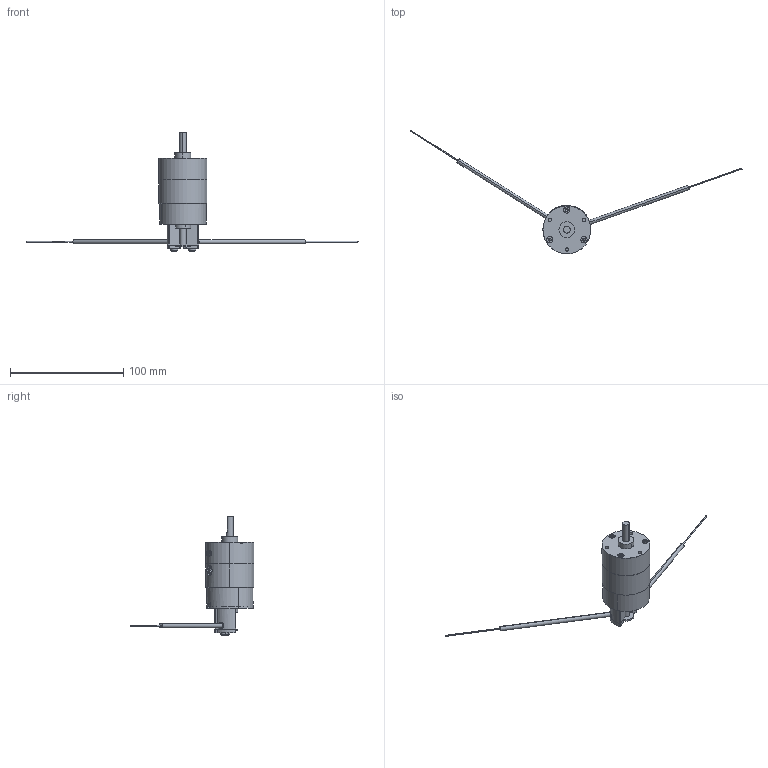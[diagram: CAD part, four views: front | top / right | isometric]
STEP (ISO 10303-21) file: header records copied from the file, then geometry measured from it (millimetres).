
FILE_DESCRIPTION (( 'STEP AP203' ), '1' );
FILE_NAME ('PROA10S-#-#-#-FU.STEP', '2016-02-04T07:00:14', ( 'Sam Lin' ), ( '' ), 'SwSTEP 2.0', 'SolidWorks 2013', '' );
FILE_SCHEMA (( 'CONFIG_CONTROL_DESIGN' ));
Length unit declared in the file: metre
Products named in the file (13): PROA10S-#-# (4); PROA10S-#-#-#-FR (7); PROA10S-#-# (1); PROA10S-#-#-#-FU (3); PROA10S-#-# (5); PROA10S-#-#-#-FU; PROA10S-#-# (6); PROA10S-#-# (2); mark-PROA10S; PROA10S-#-#-#-FR (2); PROA10S-#-#-#-FR (1); PROA10S-#-# (3); PROA10S-#-#-#-FR (5)
Assembly tree (16 placements, depth 2):
  PROA10S-#-#-#-FU
    PROA10S-#-# (3)
    PROA10S-#-# (4)
    PROA10S-#-# (1)
    PROA10S-#-# (5)
    PROA10S-#-# (6)
    PROA10S-#-# (2)
    mark-PROA10S
    PROA10S-#-#-#-FR (2)
    PROA10S-#-#-#-FR (1)  x2
    PROA10S-#-#-#-FR (5)  x2
    PROA10S-#-#-#-FR (7)  x2
    PROA10S-#-#-#-FU (3)  x2
Bounding box: 293.74 x 109.48 x 105.61 mm (x, y, z)
Volume: 72167.7 mm3; surface area: 31911.1 mm2
Topology: 23 solids, 23 shells, 519 faces, 1263 edges, 827 vertices
Faces by surface type: cylinder 248, plane 214, bspline 39, cone 18
Entity records: 19123 total; most frequent: CARTESIAN_POINT 7059, DIRECTION 2229, ORIENTED_EDGE 2156, EDGE_CURVE 1078, AXIS2_PLACEMENT_3D 862, VERTEX_POINT 712, EDGE_LOOP 528, VECTOR 505
